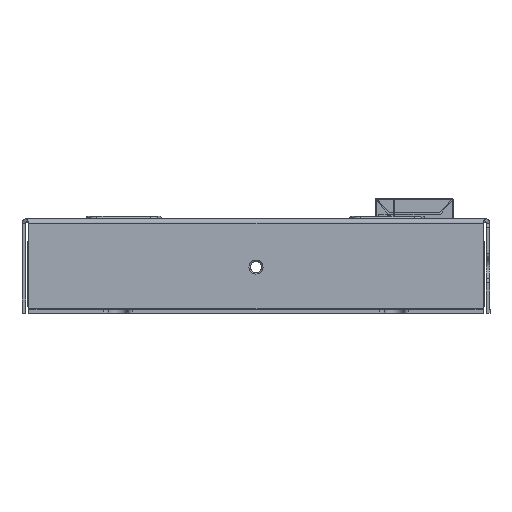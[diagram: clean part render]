
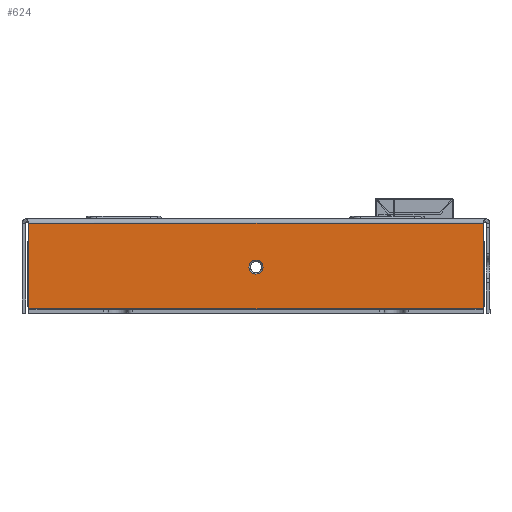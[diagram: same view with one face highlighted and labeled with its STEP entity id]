
A CAD part, front view. The second image highlights one B-rep face of the part: STEP entity #624.
In plain terms, the highlighted planar face has unit normal (0, -1, 0).
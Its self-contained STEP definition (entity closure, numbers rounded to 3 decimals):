
#624 = ADVANCED_FACE ( 'NONE', ( #59090, #68149 ), #1410, .F. ) ;
#1410 = PLANE ( 'NONE',  #19632 ) ;
#1676 = LINE ( 'NONE', #73772, #49420 ) ;
#4088 = EDGE_CURVE ( 'NONE', #6896, #18151, #47373, .T. ) ;
#4329 = CARTESIAN_POINT ( 'NONE',  ( 0., -79.05, 11.225 ) ) ;
#5620 = EDGE_CURVE ( 'NONE', #94066, #63869, #87831, .T. ) ;
#6439 = CARTESIAN_POINT ( 'NONE',  ( 0., -79.05, 9.7 ) ) ;
#6896 = VERTEX_POINT ( 'NONE', #100032 ) ;
#8863 = VERTEX_POINT ( 'NONE', #4329 ) ;
#13401 = DIRECTION ( 'NONE',  ( 0., -1., 0. ) ) ;
#15210 = CARTESIAN_POINT ( 'NONE',  ( -49.293, -79.05, 0. ) ) ;
#18151 = VERTEX_POINT ( 'NONE', #45341 ) ;
#19632 = AXIS2_PLACEMENT_3D ( 'NONE', #52157, #74547, #34000 ) ;
#19913 = DIRECTION ( 'NONE',  ( 0., -1., 0. ) ) ;
#21393 = DIRECTION ( 'NONE',  ( -1., 0., 0. ) ) ;
#21719 = CARTESIAN_POINT ( 'NONE',  ( -49.293, -79.05, 0.2 ) ) ;
#22376 = AXIS2_PLACEMENT_3D ( 'NONE', #83969, #19913, #93542 ) ;
#23300 = CIRCLE ( 'NONE', #74408, 1.525 ) ;
#23762 = DIRECTION ( 'NONE',  ( 0., 0., 1. ) ) ;
#24699 = ORIENTED_EDGE ( 'NONE', *, *, #70002, .F. ) ;
#29667 = ORIENTED_EDGE ( 'NONE', *, *, #4088, .T. ) ;
#31991 = CARTESIAN_POINT ( 'NONE',  ( 0., -79.05, 0.2 ) ) ;
#34000 = DIRECTION ( 'NONE',  ( 0., 0., 1. ) ) ;
#39880 = VECTOR ( 'NONE', #48941, 1000. ) ;
#40285 = ORIENTED_EDGE ( 'NONE', *, *, #98920, .F. ) ;
#40694 = DIRECTION ( 'NONE',  ( 1., 0., 0. ) ) ;
#43692 = CARTESIAN_POINT ( 'NONE',  ( 0., -79.05, 8.175 ) ) ;
#45341 = CARTESIAN_POINT ( 'NONE',  ( 49.293, -79.05, 18.7 ) ) ;
#47064 = EDGE_LOOP ( 'NONE', ( #58906, #73053, #63352, #29667 ) ) ;
#47373 = LINE ( 'NONE', #79928, #39880 ) ;
#48921 = EDGE_CURVE ( 'NONE', #6896, #94066, #105089, .T. ) ;
#48941 = DIRECTION ( 'NONE',  ( 0., 0., 1. ) ) ;
#49420 = VECTOR ( 'NONE', #40694, 1000. ) ;
#52157 = CARTESIAN_POINT ( 'NONE',  ( 0., -79.05, 0. ) ) ;
#54459 = EDGE_LOOP ( 'NONE', ( #24699, #40285 ) ) ;
#58906 = ORIENTED_EDGE ( 'NONE', *, *, #62655, .F. ) ;
#59090 = FACE_BOUND ( 'NONE', #54459, .T. ) ;
#62655 = EDGE_CURVE ( 'NONE', #63869, #18151, #1676, .T. ) ;
#63352 = ORIENTED_EDGE ( 'NONE', *, *, #48921, .F. ) ;
#63869 = VERTEX_POINT ( 'NONE', #70661 ) ;
#67362 = VECTOR ( 'NONE', #21393, 1000. ) ;
#68149 = FACE_OUTER_BOUND ( 'NONE', #47064, .T. ) ;
#70002 = EDGE_CURVE ( 'NONE', #77703, #8863, #23300, .T. ) ;
#70661 = CARTESIAN_POINT ( 'NONE',  ( -49.293, -79.05, 18.7 ) ) ;
#73053 = ORIENTED_EDGE ( 'NONE', *, *, #5620, .F. ) ;
#73772 = CARTESIAN_POINT ( 'NONE',  ( -49.293, -79.05, 18.7 ) ) ;
#74408 = AXIS2_PLACEMENT_3D ( 'NONE', #6439, #13401, #94549 ) ;
#74547 = DIRECTION ( 'NONE',  ( 0., 1., 0. ) ) ;
#77703 = VERTEX_POINT ( 'NONE', #43692 ) ;
#79928 = CARTESIAN_POINT ( 'NONE',  ( 49.293, -79.05, 0. ) ) ;
#81705 = VECTOR ( 'NONE', #23762, 1000. ) ;
#83969 = CARTESIAN_POINT ( 'NONE',  ( 0., -79.05, 9.7 ) ) ;
#87831 = LINE ( 'NONE', #15210, #81705 ) ;
#88791 = CIRCLE ( 'NONE', #22376, 1.525 ) ;
#93542 = DIRECTION ( 'NONE',  ( 0., 0., -1. ) ) ;
#94066 = VERTEX_POINT ( 'NONE', #21719 ) ;
#94549 = DIRECTION ( 'NONE',  ( 0., 0., -1. ) ) ;
#98920 = EDGE_CURVE ( 'NONE', #8863, #77703, #88791, .T. ) ;
#100032 = CARTESIAN_POINT ( 'NONE',  ( 49.293, -79.05, 0.2 ) ) ;
#105089 = LINE ( 'NONE', #31991, #67362 ) ;
